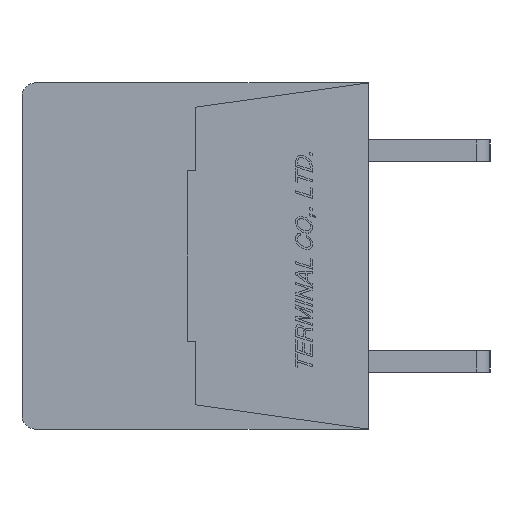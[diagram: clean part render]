
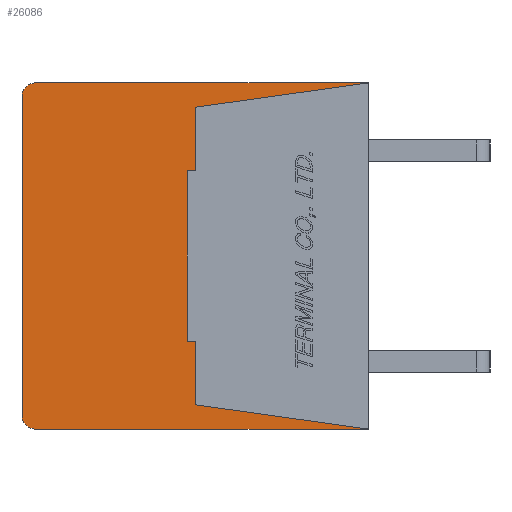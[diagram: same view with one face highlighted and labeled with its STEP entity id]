
A CAD part, left-side view. The second image highlights one B-rep face of the part: STEP entity #26086.
In plain terms, the highlighted planar face has unit normal (-1, 0, 0).
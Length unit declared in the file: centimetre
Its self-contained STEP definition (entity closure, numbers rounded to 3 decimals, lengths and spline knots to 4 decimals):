
#1346=CIRCLE('',#44563,0.05);
#1347=CIRCLE('',#44566,0.05);
#2376=VERTEX_POINT('',#36427);
#2377=VERTEX_POINT('',#36429);
#2378=VERTEX_POINT('',#36433);
#2379=VERTEX_POINT('',#36437);
#2380=VERTEX_POINT('',#36441);
#2381=VERTEX_POINT('',#36445);
#2382=VERTEX_POINT('',#36449);
#2383=VERTEX_POINT('',#36451);
#2384=VERTEX_POINT('',#36453);
#2385=VERTEX_POINT('',#36455);
#2386=VERTEX_POINT('',#36457);
#2387=VERTEX_POINT('',#36459);
#5148=VECTOR('',#30232,1.);
#5152=VECTOR('',#30241,1.);
#5155=VECTOR('',#30249,1.);
#5156=VECTOR('',#30251,1.);
#5157=VECTOR('',#30252,1.);
#5158=VECTOR('',#30253,1.);
#5159=VECTOR('',#30254,1.);
#5160=VECTOR('',#30255,1.);
#5161=VECTOR('',#30256,1.);
#5162=VECTOR('',#30257,1.);
#8218=LINE('',#36428,#5148);
#8222=LINE('',#36438,#5152);
#8225=LINE('',#36446,#5155);
#8226=LINE('',#36448,#5156);
#8227=LINE('',#36450,#5157);
#8228=LINE('',#36452,#5158);
#8229=LINE('',#36454,#5159);
#8230=LINE('',#36456,#5160);
#8231=LINE('',#36458,#5161);
#8232=LINE('',#36460,#5162);
#11648=EDGE_CURVE('',#2377,#2376,#8218,.T.);
#11651=EDGE_CURVE('',#2378,#2376,#1346,.T.);
#11653=EDGE_CURVE('',#2378,#2379,#8222,.T.);
#11655=EDGE_CURVE('',#2380,#2379,#1347,.T.);
#11657=EDGE_CURVE('',#2380,#2381,#8225,.T.);
#11658=EDGE_CURVE('',#2382,#2377,#8226,.T.);
#11659=EDGE_CURVE('',#2381,#2383,#8227,.T.);
#11660=EDGE_CURVE('',#2383,#2384,#8228,.T.);
#11661=EDGE_CURVE('',#2384,#2385,#8229,.T.);
#11662=EDGE_CURVE('',#2385,#2386,#8230,.T.);
#11663=EDGE_CURVE('',#2386,#2387,#8231,.T.);
#11664=EDGE_CURVE('',#2387,#2382,#8232,.T.);
#17015=ORIENTED_EDGE('',*,*,#11658,.T.);
#17016=ORIENTED_EDGE('',*,*,#11648,.T.);
#17017=ORIENTED_EDGE('',*,*,#11651,.F.);
#17018=ORIENTED_EDGE('',*,*,#11653,.T.);
#17019=ORIENTED_EDGE('',*,*,#11655,.F.);
#17020=ORIENTED_EDGE('',*,*,#11657,.T.);
#17021=ORIENTED_EDGE('',*,*,#11659,.T.);
#17022=ORIENTED_EDGE('',*,*,#11660,.T.);
#17023=ORIENTED_EDGE('',*,*,#11661,.T.);
#17024=ORIENTED_EDGE('',*,*,#11662,.T.);
#17025=ORIENTED_EDGE('',*,*,#11663,.T.);
#17026=ORIENTED_EDGE('',*,*,#11664,.T.);
#22732=EDGE_LOOP('',(#17015,#17016,#17017,#17018,#17019,#17020,#17021,#17022,
#17023,#17024,#17025,#17026));
#24446=FACE_BOUND('',#22732,.T.);
#26086=ADVANCED_FACE('',(#24446),#27490,.F.);
#27490=PLANE('',#44568);
#30232=DIRECTION('',(0.,1.,0.));
#30237=DIRECTION('',(1.,0.,0.));
#30238=DIRECTION('',(0.,0.,-0.05));
#30241=DIRECTION('',(0.,0.,-1.));
#30245=DIRECTION('',(1.,0.,0.));
#30246=DIRECTION('',(0.,0.,-0.05));
#30249=DIRECTION('',(0.,-1.,0.));
#30250=DIRECTION('',(1.,0.,0.));
#30251=DIRECTION('',(0.,-0.99,0.139));
#30252=DIRECTION('',(0.,0.99,0.139));
#30253=DIRECTION('',(0.,0.,1.));
#30254=DIRECTION('',(0.,1.,0.));
#30255=DIRECTION('',(0.,0.,1.));
#30256=DIRECTION('',(0.,-1.,0.));
#30257=DIRECTION('',(0.,0.,1.));
#36427=CARTESIAN_POINT('',(-1.,1.23,0.64));
#36428=CARTESIAN_POINT('',(-1.,0.,0.64));
#36429=CARTESIAN_POINT('',(-1.,0.,0.64));
#36433=CARTESIAN_POINT('',(-1.,1.28,0.59));
#36434=CARTESIAN_POINT('',(-1.,1.23,0.59));
#36437=CARTESIAN_POINT('',(-1.,1.28,-0.59));
#36438=CARTESIAN_POINT('',(-1.,1.28,0.59));
#36441=CARTESIAN_POINT('',(-1.,1.23,-0.64));
#36442=CARTESIAN_POINT('',(-1.,1.23,-0.59));
#36445=CARTESIAN_POINT('',(-1.,0.,-0.64));
#36446=CARTESIAN_POINT('',(-1.,1.23,-0.64));
#36447=CARTESIAN_POINT('',(-1.,0.6345,0.));
#36448=CARTESIAN_POINT('',(-1.,0.64,0.55));
#36449=CARTESIAN_POINT('',(-1.,0.64,0.55));
#36450=CARTESIAN_POINT('',(-1.,0.,-0.64));
#36451=CARTESIAN_POINT('',(-1.,0.64,-0.55));
#36452=CARTESIAN_POINT('',(-1.,0.64,-0.55));
#36453=CARTESIAN_POINT('',(-1.,0.64,-0.315));
#36454=CARTESIAN_POINT('',(-1.,0.64,-0.315));
#36455=CARTESIAN_POINT('',(-1.,0.67,-0.315));
#36456=CARTESIAN_POINT('',(-1.,0.67,-0.315));
#36457=CARTESIAN_POINT('',(-1.,0.67,0.315));
#36458=CARTESIAN_POINT('',(-1.,0.67,0.315));
#36459=CARTESIAN_POINT('',(-1.,0.64,0.315));
#36460=CARTESIAN_POINT('',(-1.,0.64,0.315));
#44563=AXIS2_PLACEMENT_3D('',#36434,#30237,#30238);
#44566=AXIS2_PLACEMENT_3D('',#36442,#30245,#30246);
#44568=AXIS2_PLACEMENT_3D('',#36447,#30250,$);
